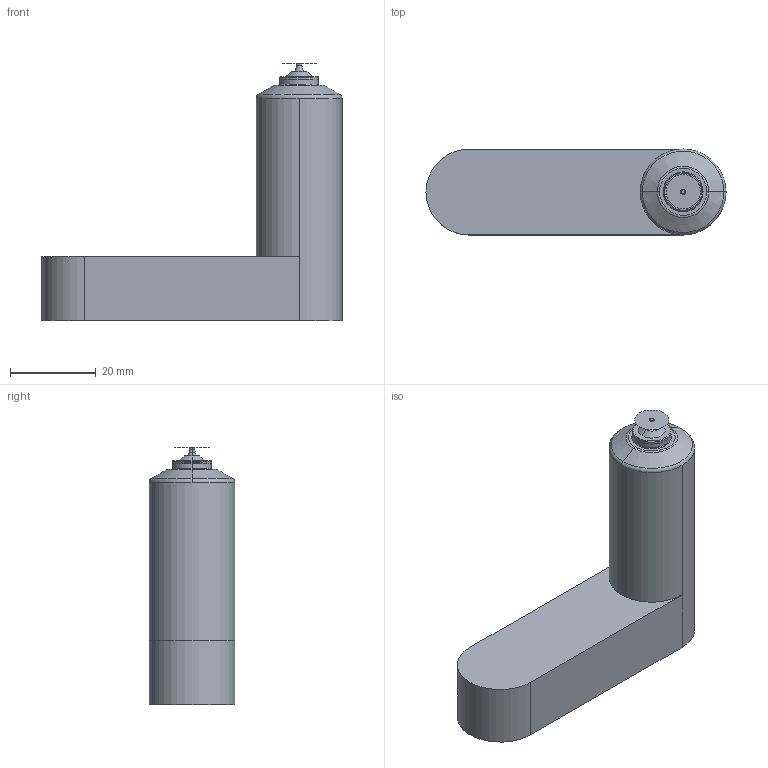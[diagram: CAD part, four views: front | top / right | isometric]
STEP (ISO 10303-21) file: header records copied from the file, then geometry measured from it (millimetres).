
FILE_DESCRIPTION (( 'STEP AP214' ), '1' );
FILE_NAME ('06E-03-060-VSW.STEP', '2023-01-03T08:26:12', ( '' ), ( '' ), 'SwSTEP 2.0', 'SolidWorks 2018', '' );
FILE_SCHEMA (( 'AUTOMOTIVE_DESIGN' ));
Length unit declared in the file: millimetre
Products named in the file (3): cutout_06E-03-060-VSW; nozzle_06E-03-060-VSW; 06E-03-060-VSW
Assembly tree (2 placements, depth 2):
  06E-03-060-VSW
    nozzle_06E-03-060-VSW
    cutout_06E-03-060-VSW
Bounding box: 70 x 20 x 60.15 mm (x, y, z)
Volume: 32149.2 mm3; surface area: 14382.2 mm2
Topology: 1 solids, 4 shells, 251 faces, 619 edges, 377 vertices
Faces by surface type: cylinder 94, plane 82, torus 35, cone 30, bspline 10
Entity records: 11719 total; most frequent: CARTESIAN_POINT 5614, DIRECTION 1330, ORIENTED_EDGE 1236, EDGE_CURVE 619, AXIS2_PLACEMENT_3D 535, VERTEX_POINT 377, CIRCLE 288, EDGE_LOOP 261
